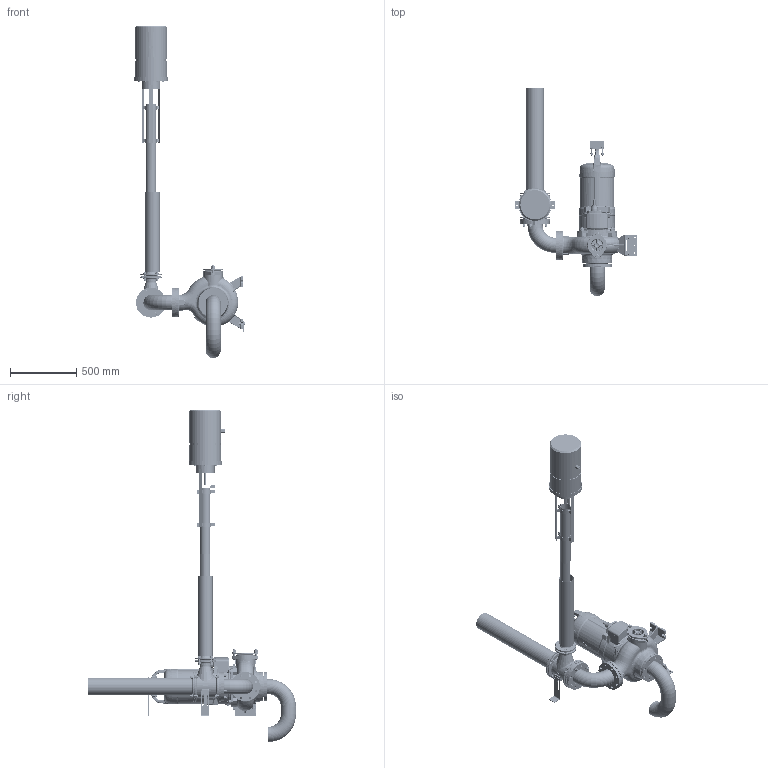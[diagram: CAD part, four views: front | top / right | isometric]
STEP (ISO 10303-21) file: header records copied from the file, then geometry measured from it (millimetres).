
FILE_DESCRIPTION(/* description */ (''),/* implementation_level */ '2;1');
FILE_NAME(/* name */ 'H:\3D\Projekte\@Wirbeljet\700 Amajet_2021_step\SewerAmajet_M_Gully_suction_KA_16.stp',/* time_stamp */ '2021-04-12T22:43:21+02:00',/* author */ ('emmrpat'),/* organization */ (''),/* preprocessor_version */ 'ST-DEVELOPER v18',/* originating_system */ 'Autodesk Inventor 2020',/* authorisation */ '');
FILE_SCHEMA (('AUTOMOTIVE_DESIGN { 1 0 10303 214 3 1 1 }'));
Length unit declared in the file: millimetre
Products named in the file (72): SewerAmajet_M_Gully_suction_KA_16; Dichtung1_DN100_5mm; Flansch_0W308059; 0W308365_Vari_01_Duese; Strahlrohr_133mm_800mm; 0W308365_Vari_01_Duese_1; Dichtung_DN100_5mm; Dichtung_DN65_4mm_110; 0W308366_800mm_Belueftung; 0W308366_800mm_Rohr; Vorschweißflansch_DN65_PN6; Kabelschutzrohr_01; 0W382247_Mischkammer; Verstelllasche; ISO 7089 -  8; ISO 4762  - M8 x 16; FFQ-Stueck_DN100_Losflansche_183mm_Edelstahl; Aufstellung_03; KRT_100-250_komplett; Sewatec_100-250_0W383895_01; Putzlochdeckel_Z065469; ISO 4032 - M16; DIN 188 - M16 x 70; UG155595214_01; ug1004874zmn001_01; ug1004383zmn001_01; ug1510147zmk001_01_BODY; ug1510095zmk001_01; ug1510137zmk001_01; ug1510136zmk001_01; ug1510110zmk001_01; UG154735011ZMM001_02; UG153885001ZMM001_01; ug1012584zmn001_01; ug1002091zmn001_01; UG154911611ZMM001_04; ISO 4032 - M16_1; DIN 835 - M16 x 50; Stützwinkel_neu_01; Stützwinkel_neu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
Assembly tree (185 placements, depth 5):
  SewerAmajet_M_Gully_suction_KA_16
    Dichtung1_DN100_5mm  x3
    Flansch_0W308059
    Dichtung_DN100_5mm  x2
    0W308365_Vari_01_Duese
    Strahlrohr_133mm_800mm
    0W308365_Vari_01_Duese_1
    Dichtung_DN65_4mm_110
    0W308366_800mm_Belueftung
      0W308366_800mm_Rohr
      Vorschweißflansch_DN65_PN6
    Kabelschutzrohr_01
    0W382247_Mischkammer
    Verstelllasche  x2
    ISO 7089 -  8  x4
    ISO 4762  - M8 x 16  x4
    FFQ-Stueck_DN100_Losflansche_183mm_Edelstahl
    Aufstellung_03
      KRT_100-250_komplett
        Sewatec_100-250_0W383895_01
        Putzlochdeckel_Z065469
        ISO 4032 - M16  x2
        ISO 7089 -  16  x2
        DIN 188 - M16 x 70  x2
      UG155595214_01
        ug1004874zmn001_01  x4
        ug1004383zmn001_01  x2
        ug1510147zmk001_01_BODY
          ug1510095zmk001_01
          ug1510137zmk001_01  x12
          ug1510136zmk001_01
          ug1510110zmk001_01
        UG154735011ZMM001_02
        UG153885001ZMM001_01
        ug1012584zmn001_01
        ug1002091zmn001_01
        UG154911611ZMM001_04
        ISO 4032 - M16_1  x4
        ISO 7089 -  16  x4
        DIN 835 - M16 x 50  x4
    Stützwinkel_neu_01
      Stützwinkel_neu
      Klemmblech_neu
      ISO 4032 - M10  x2
      ISO 7089 - 10 - 140 HV  x2
      ISO 4017 - M10 x 55  x2
    Stützwinkel_Pumpe_S-Aufstellung
    ISO 7089 -  12  x28
    ISO 4032 - M12  x14
    ISO 4017 - M12 x 45  x2
    ISO 7089 -  16
    DIN 835 - M12 x 40  x4
    ISO 4017 - M12 x 30  x4
    ISO 4017 - M12 x 50  x4
    ISO 4017 - M12 x 55  x4
    ‎SLGS233-20-024
      Vorschweißbördel_30mm_DN100_PN10
      Bogen_DN100 BA3  x2
      Rohr_DN100_56mm
      Losflansch_DN100_PN10_12mm
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Bounding box: 914 x 1567.65 x 2501.65 mm (x, y, z)
Volume: 45714471.2 mm3; surface area: 6999717.5 mm2
Topology: 182 solids, 182 shells, 4235 faces, 10025 edges, 6227 vertices
Faces by surface type: plane 1547, cylinder 1065, bspline 715, cone 397, torus 378, sphere 133
Full cylindrical faces by diameter (mm): 3 x12, 3.05 x2, 3.3 x1, 4 x12, 5 x12, 6 x12, 6.647 x6, 6.8 x1, 7 x24, 8 x15, 8.376 x4, 8.4 x4, 8.5 x6, 9.5 x6, 10 x10, 10.106 x14, 10.5 x2, 11 x12, 11.5 x8, 12 x26, 13 x40, 13.835 x6, 14 x4, 14.63 x4, 15.25 x1, 16 x25, 16.63 x14, 16.662 x1, 17 x7, 17.1 x1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
Entity records: 138600 total; most frequent: CARTESIAN_POINT 61199, ORIENTED_EDGE 15364, DIRECTION 15335, EDGE_CURVE 7682, AXIS2_PLACEMENT_3D 6410, VERTEX_POINT 4770, EDGE_LOOP 3676, CIRCLE 3473
